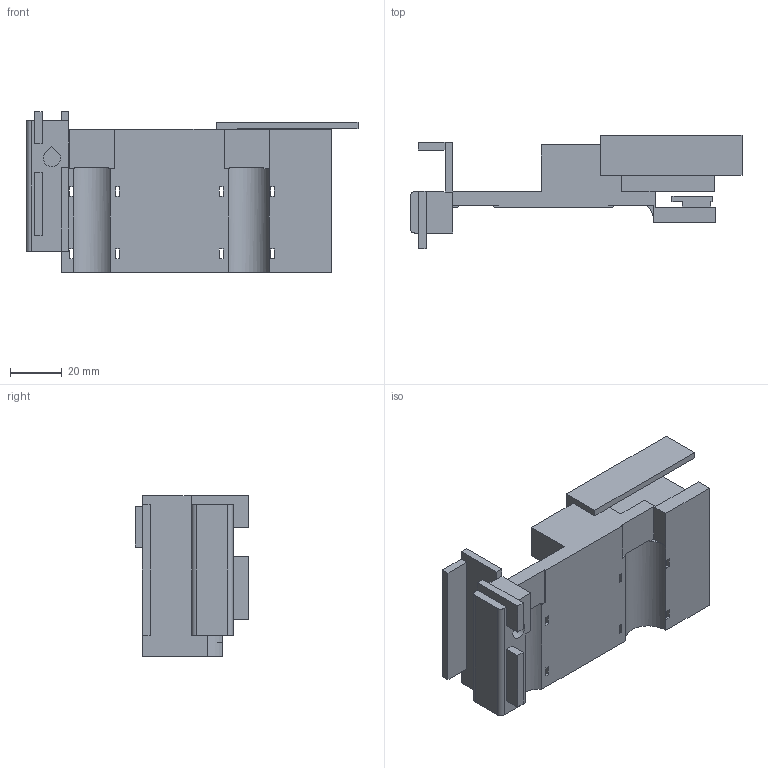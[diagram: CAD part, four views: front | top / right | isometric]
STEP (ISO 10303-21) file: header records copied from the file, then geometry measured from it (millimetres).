
FILE_DESCRIPTION(('Open CASCADE Model'),'2;1');
FILE_NAME('Open CASCADE Shape Model','1970-01-01T00:00:00',('Author'),( 'Open CASCADE'),'Open CASCADE STEP processor 7.8','Open CASCADE 7.8' ,'Unknown');
FILE_SCHEMA(('AUTOMOTIVE_DESIGN { 1 0 10303 214 1 1 1 1 }'));
Length unit declared in the file: millimetre
Products named in the file (2): Open CASCADE STEP translator 7.8 1; enclosure-tee-carrier-left
Assembly tree (1 placements, depth 2):
  Open CASCADE STEP translator 7.8 1
    enclosure-tee-carrier-left
Bounding box: 128 x 43.71 x 61.95 mm (x, y, z)
Volume: 66332.6 mm3; surface area: 28115.2 mm2
Topology: 1 solids, 1 shells, 125 faces, 367 edges, 244 vertices
Faces by surface type: plane 120, cylinder 5
Entity records: 8735 total; most frequent: CARTESIAN_POINT 1675, DIRECTION 1177, LINE 880, VECTOR 880, ORIENTED_EDGE 734, PCURVE 734, DEFINITIONAL_REPRESENTATION 734, EDGE_CURVE 367
